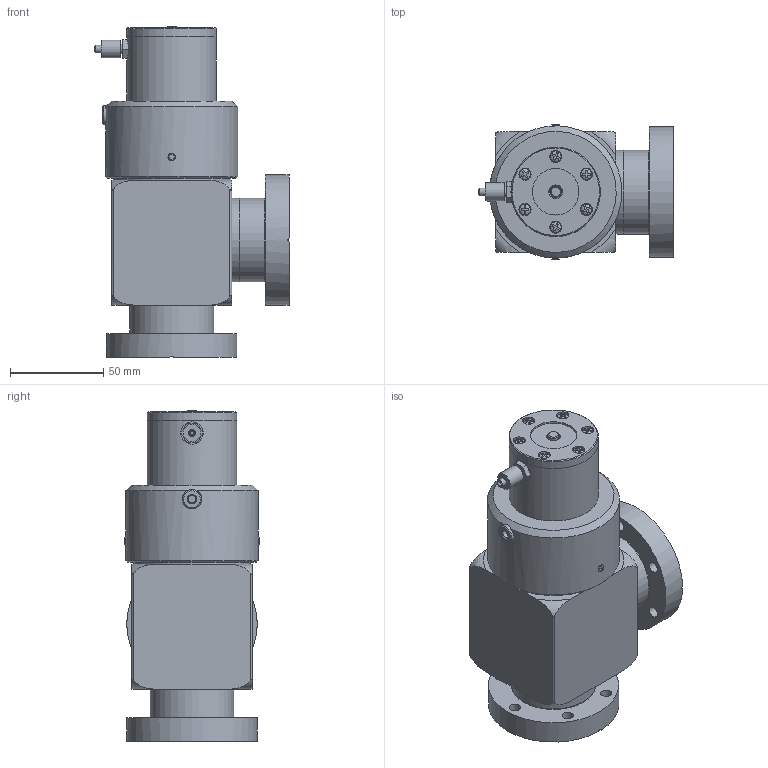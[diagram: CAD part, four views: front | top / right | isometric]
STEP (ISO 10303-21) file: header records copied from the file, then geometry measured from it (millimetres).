
FILE_DESCRIPTION( ( 'Unknown' ), '1' );
FILE_NAME( 'X:/Daten ( aktueller Bestand )/Projekte und Zeichnungen/Solid Edge/STP-Dateien/UHV Eckventil CF/706211.stp', 'Unknown', ( 'Unknown' ), ( 'Unknown' ), 'PSStep 14.0', 'Unknown', ' ' );
FILE_SCHEMA( ( 'AUTOMOTIVE_DESIGN { 1 0 10303 214 1 1 1 1 }' ) );
Length unit declared in the file: millimetre
Products named in the file (14): 7512R4G; 7512R4-2; 7512R3G-1; Assem1; 3006-1; 3102-2; 3102-3; 3102-4; 3102-5; Schraube_3x8; M4x4; Anschluss Festo; Eckvent. 40 Koerper CF; Eckvent.40 Stutzen CF
Assembly tree (20 placements, depth 3):
  Assem1
    3006-1
    3102-2
    3102-3
    3102-4
    3102-5
    Schraube_3x8  x6
    M4x4  x2
    Anschluss Festo
    Eckvent. 40 Koerper CF
    Eckvent.40 Stutzen CF
    7512R4G  x2
      7512R4-2
      7512R3G-1
Bounding box: 104.2 x 72 x 177.5 mm (x, y, z)
Volume: 558953 mm3; surface area: 120559.1 mm2
Topology: 20 solids, 20 shells, 323 faces, 742 edges, 497 vertices
Faces by surface type: plane 177, cylinder 101, cone 30, torus 9, sphere 6
Full cylindrical faces by diameter (mm): 2 x1, 2.459 x6, 2.8 x1, 3 x6, 3.242 x2, 3.3 x6, 4 x3, 4.134 x2, 5 x2, 5.793 x6, 6 x14, 6.3 x1, 6.5 x6, 9.518 x1, 10 x1, 10.5 x1, 12 x1, 12.5 x1, 16.913 x1, 20 x1, 25 x1, 26 x1, 33.739 x1, 37 x2, 37.97 x1, 40 x3, 40.2 x2, 42 x2, 44.95 x1, 45 x3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
Entity records: 7308 total; most frequent: CARTESIAN_POINT 1650, DIRECTION 854, ORIENTED_EDGE 576, AXIS2_PLACEMENT_3D 387, EDGE_LOOP 363, EDGE_CURVE 288, FACE_OUTER_BOUND 266, VERTEX_POINT 249
